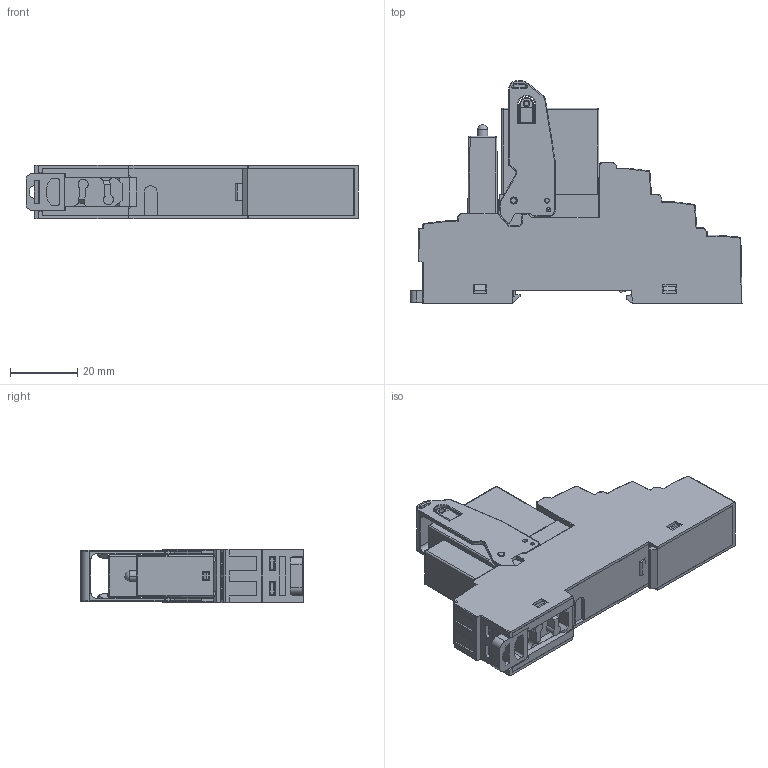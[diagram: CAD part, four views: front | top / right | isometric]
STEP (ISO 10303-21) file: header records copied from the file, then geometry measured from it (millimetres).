
FILE_DESCRIPTION (( 'STEP AP214' ), '1' );
FILE_NAME ('RELAY CP 2C-...-PU.STEP', '2024-07-04T08:56:35', ( '' ), ( '' ), 'SwSTEP 2.0', 'SolidWorks 2023', '' );
FILE_SCHEMA (( 'AUTOMOTIVE_DESIGN' ));
Length unit declared in the file: millimetre
Products named in the file (4): RELAY CP 2C; RELAY CP 2C-...-PU; 指示灯3d.stp; SOCKET CP 2C-PU.stp
Assembly tree (3 placements, depth 2):
  RELAY CP 2C-...-PU
    RELAY CP 2C
    指示灯3d.stp
    SOCKET CP 2C-PU.stp
Bounding box: 99.03 x 66.3 x 16 mm (x, y, z)
Volume: 45720.1 mm3; surface area: 47198.8 mm2
Topology: 33 solids, 33 shells, 6178 faces, 17050 edges, 10664 vertices
Faces by surface type: plane 3721, cylinder 1794, torus 300, sphere 161, bspline 102, cone 100
Entity records: 196409 total; most frequent: CARTESIAN_POINT 39358, ORIENTED_EDGE 33742, DIRECTION 31753, EDGE_CURVE 16871, LINE 12383, VECTOR 12383, VERTEX_POINT 10660, AXIS2_PLACEMENT_3D 9685
